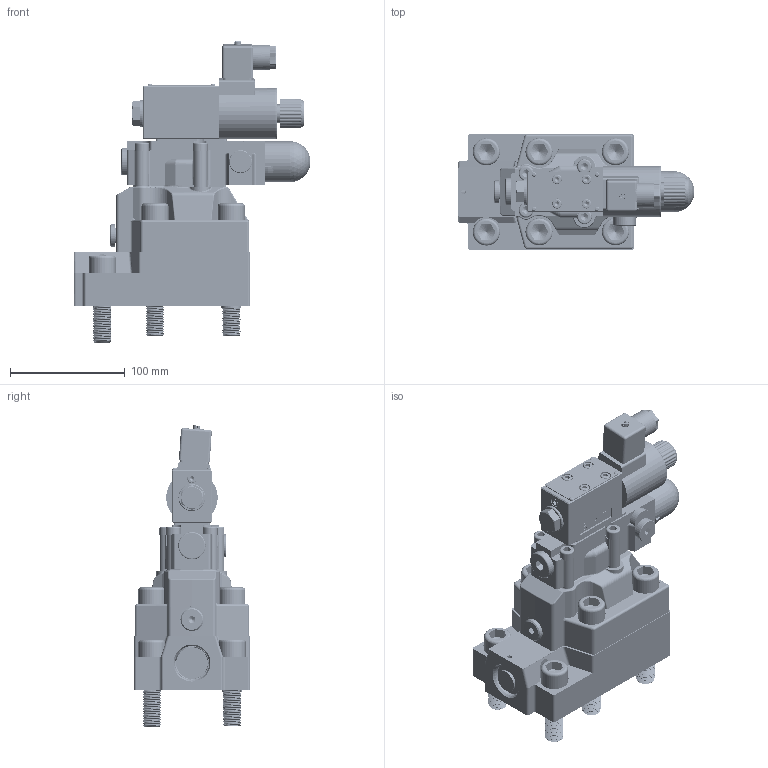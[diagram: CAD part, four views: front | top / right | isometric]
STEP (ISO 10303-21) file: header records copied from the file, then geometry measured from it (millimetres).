
FILE_DESCRIPTION(/* description */ (''),/* implementation_level */ '2;1');
FILE_NAME(/* name */ 'DAW20B-2-3XJ 160-17G24N9Z5L.stp',/* time_stamp */ '2023-08-12T09:26:03+08:00',/* author */ (''),/* organization */ (''),/* preprocessor_version */ 'ST-DEVELOPER v16.7',/* originating_system */ 'SIEMENS PLM Software NX 12.0',/* authorisation */ '');
FILE_SCHEMA (('AUTOMOTIVE_DESIGN { 1 0 10303 214 3 1 1 1 }'));
Products named in the file (1): DAW20B-2-3XJ
Bounding box: 206.67 x 101 x 263.06 mm (x, y, z)
Volume: 1008821.1 mm3; surface area: 425962.8 mm2
Topology: 90 solids, 97 shells, 2973 faces, 7596 edges, 4929 vertices
Faces by surface type: plane 1165, cylinder 1146, cone 242, bspline 198, torus 176, extrusion 30, sphere 16
Full cylindrical faces by diameter (mm): 0.8 x2, 1 x2, 1.2 x1, 1.25 x2, 1.6 x1, 1.8 x4, 2 x5, 2.2 x5, 2.5 x4, 3 x49, 3.1 x4, 3.3 x9, 3.4 x14, 3.5 x1, 4 x2, 4.2 x1, 4.3 x44, 4.5 x1, 5 x22, 5.3 x16, 5.4 x2, 5.5 x1, 5.8 x8, 6 x16, 6.5 x1, 6.9 x8, 7 x14, 7.3 x9, 7.4 x16, 7.401 x1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
Entity records: 305551 total; most frequent: CARTESIAN_POINT 249439, DIRECTION 10733, ORIENTED_EDGE 10516, EDGE_CURVE 5258, AXIS2_PLACEMENT_3D 4394, VERTEX_POINT 3699, EDGE_LOOP 3690, ADVANCED_FACE 2647
